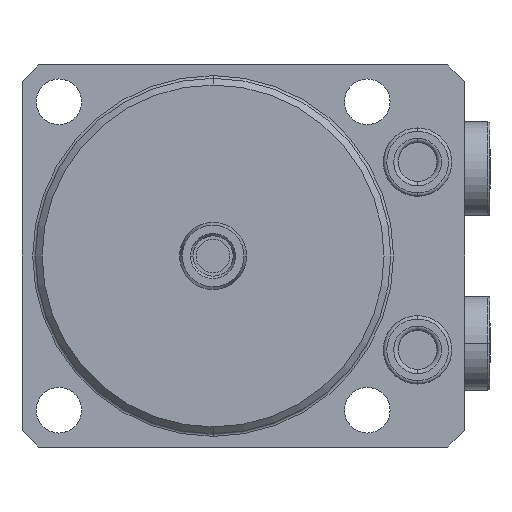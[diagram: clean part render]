
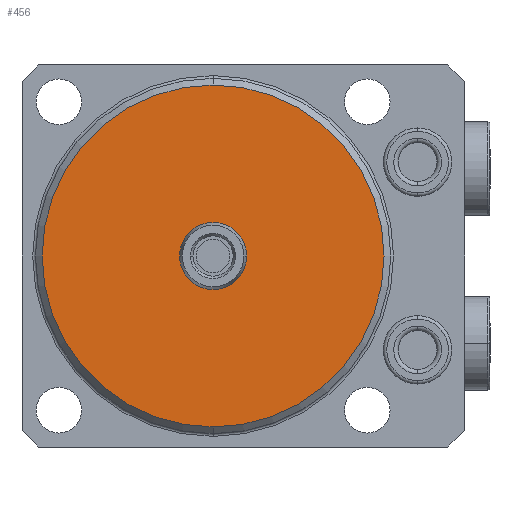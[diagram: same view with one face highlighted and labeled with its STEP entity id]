
A CAD part, front view. The second image highlights one B-rep face of the part: STEP entity #456.
In plain terms, the highlighted planar face has unit normal (0, -1, 0) as drawn and (0, 1, 0) by its records, which use the part's own axes.
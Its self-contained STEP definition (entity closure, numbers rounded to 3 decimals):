
#196=PLANE('',#4769);
#306=FACE_BOUND('',#1098,.F.);
#307=FACE_BOUND('',#1099,.F.);
#456=ADVANCED_FACE('',(#306,#307),#196,.T.);
#1098=EDGE_LOOP('',(#1945,#1946));
#1099=EDGE_LOOP('',(#1947,#1948));
#1380=CIRCLE('',#4656,5.);
#1435=CIRCLE('',#4734,25.5);
#1453=CIRCLE('',#4767,5.);
#1454=CIRCLE('',#4768,25.5);
#1945=ORIENTED_EDGE('',*,*,#3585,.T.);
#1946=ORIENTED_EDGE('',*,*,#3408,.T.);
#1947=ORIENTED_EDGE('',*,*,#3586,.T.);
#1948=ORIENTED_EDGE('',*,*,#3496,.T.);
#2984=VERTEX_POINT('',#6761);
#2985=VERTEX_POINT('',#6762);
#3056=VERTEX_POINT('',#6949);
#3057=VERTEX_POINT('',#6950);
#3408=EDGE_CURVE('',#2984,#2985,#1380,.T.);
#3496=EDGE_CURVE('',#3056,#3057,#1435,.T.);
#3585=EDGE_CURVE('',#2985,#2984,#1453,.T.);
#3586=EDGE_CURVE('',#3057,#3056,#1454,.T.);
#4656=AXIS2_PLACEMENT_3D('',#6760,#5296,#5297);
#4734=AXIS2_PLACEMENT_3D('',#6948,#5484,#5485);
#4767=AXIS2_PLACEMENT_3D('',#7204,#5598,#5599);
#4768=AXIS2_PLACEMENT_3D('',#7205,#5600,#5601);
#4769=AXIS2_PLACEMENT_3D('',#7206,#5602,#5603);
#5296=DIRECTION('',(0.,1.,0.));
#5297=DIRECTION('',(0.,0.,1.));
#5484=DIRECTION('',(0.,-1.,0.));
#5485=DIRECTION('',(0.,0.,1.));
#5598=DIRECTION('',(0.,1.,0.));
#5599=DIRECTION('',(0.,0.,1.));
#5600=DIRECTION('',(0.,-1.,0.));
#5601=DIRECTION('',(0.,0.,1.));
#5602=DIRECTION('',(0.,1.,0.));
#5603=DIRECTION('',(0.,0.,1.));
#6760=CARTESIAN_POINT('',(0.,-42.5,0.));
#6761=CARTESIAN_POINT('',(0.,-42.5,-5.));
#6762=CARTESIAN_POINT('',(0.,-42.5,5.));
#6948=CARTESIAN_POINT('',(0.,-42.5,0.));
#6949=CARTESIAN_POINT('',(0.,-42.5,-25.5));
#6950=CARTESIAN_POINT('',(0.,-42.5,25.5));
#7204=CARTESIAN_POINT('',(0.,-42.5,0.));
#7205=CARTESIAN_POINT('',(0.,-42.5,0.));
#7206=CARTESIAN_POINT('',(0.,-42.5,0.));
